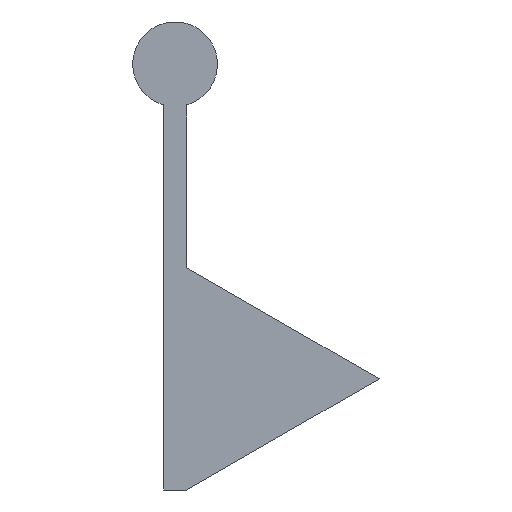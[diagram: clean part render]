
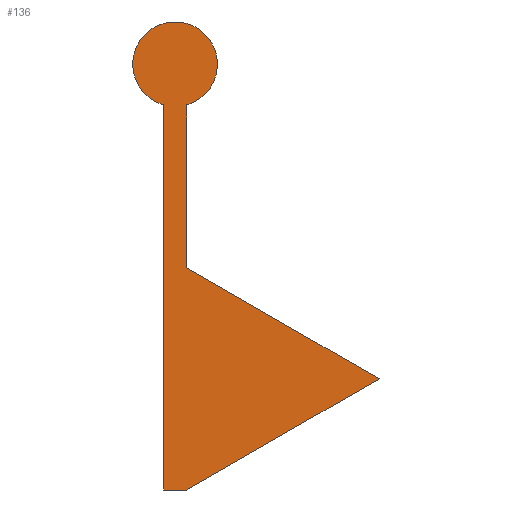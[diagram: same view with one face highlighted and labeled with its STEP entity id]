
A CAD part, front view. The second image highlights one B-rep face of the part: STEP entity #136.
In plain terms, the highlighted planar face has unit normal (0, -1, 0).
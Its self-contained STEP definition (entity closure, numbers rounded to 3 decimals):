
#7 = FACE_OUTER_BOUND ( 'NONE', #71, .T. ) ;
#17 = ORIENTED_EDGE ( 'NONE', *, *, #141, .F. ) ;
#29 = CARTESIAN_POINT ( 'NONE',  ( 26.5, 0., -40.858 ) ) ;
#31 = CARTESIAN_POINT ( 'NONE',  ( 1.5, 0., -55.292 ) ) ;
#32 = DIRECTION ( 'NONE',  ( 0., 0., 1. ) ) ;
#35 = DIRECTION ( 'NONE',  ( 0., 0., -1. ) ) ;
#36 = VERTEX_POINT ( 'NONE', #148 ) ;
#39 = CARTESIAN_POINT ( 'NONE',  ( 1.5, 0., -5.292 ) ) ;
#45 = AXIS2_PLACEMENT_3D ( 'NONE', #286, #185, #285 ) ;
#56 = VECTOR ( 'NONE', #65, 1000. ) ;
#57 = DIRECTION ( 'NONE',  ( 0.866, 0., -0.5 ) ) ;
#65 = DIRECTION ( 'NONE',  ( 0., 0., 1. ) ) ;
#71 = EDGE_LOOP ( 'NONE', ( #17, #224, #115, #229, #73, #328 ) ) ;
#73 = ORIENTED_EDGE ( 'NONE', *, *, #107, .F. ) ;
#92 = DIRECTION ( 'NONE',  ( -1., 0., 0. ) ) ;
#105 = CARTESIAN_POINT ( 'NONE',  ( 1.5, 0., -55.292 ) ) ;
#107 = EDGE_CURVE ( 'NONE', #36, #243, #109, .T. ) ;
#109 = LINE ( 'NONE', #29, #123 ) ;
#115 = ORIENTED_EDGE ( 'NONE', *, *, #297, .F. ) ;
#123 = VECTOR ( 'NONE', #57, 1000. ) ;
#127 = VERTEX_POINT ( 'NONE', #261 ) ;
#135 = DIRECTION ( 'NONE',  ( 0., 1., 0. ) ) ;
#136 = ADVANCED_FACE ( 'NONE', ( #7 ), #157, .F. ) ;
#138 = LINE ( 'NONE', #105, #150 ) ;
#139 = LINE ( 'NONE', #265, #192 ) ;
#141 = EDGE_CURVE ( 'NONE', #127, #252, #312, .T. ) ;
#142 = CARTESIAN_POINT ( 'NONE',  ( 1.5, 0., -5.292 ) ) ;
#148 = CARTESIAN_POINT ( 'NONE',  ( 1.5, 0., -26.424 ) ) ;
#150 = VECTOR ( 'NONE', #281, 1000. ) ;
#157 = PLANE ( 'NONE',  #305 ) ;
#168 = LINE ( 'NONE', #142, #202 ) ;
#181 = EDGE_CURVE ( 'NONE', #243, #194, #138, .T. ) ;
#185 = DIRECTION ( 'NONE',  ( 0., 1., 0. ) ) ;
#191 = CARTESIAN_POINT ( 'NONE',  ( -1.5, 0., -55.292 ) ) ;
#192 = VECTOR ( 'NONE', #92, 1000. ) ;
#194 = VERTEX_POINT ( 'NONE', #31 ) ;
#202 = VECTOR ( 'NONE', #35, 1000. ) ;
#212 = CARTESIAN_POINT ( 'NONE',  ( -1.5, 0., -5.292 ) ) ;
#224 = ORIENTED_EDGE ( 'NONE', *, *, #279, .F. ) ;
#229 = ORIENTED_EDGE ( 'NONE', *, *, #181, .F. ) ;
#241 = CARTESIAN_POINT ( 'NONE',  ( 26.5, 0., -40.858 ) ) ;
#243 = VERTEX_POINT ( 'NONE', #241 ) ;
#252 = VERTEX_POINT ( 'NONE', #39 ) ;
#261 = CARTESIAN_POINT ( 'NONE',  ( -1.5, 0., -5.292 ) ) ;
#265 = CARTESIAN_POINT ( 'NONE',  ( -1.5, 0., -55.292 ) ) ;
#279 = EDGE_CURVE ( 'NONE', #304, #127, #298, .T. ) ;
#281 = DIRECTION ( 'NONE',  ( -0.866, 0., -0.5 ) ) ;
#285 = DIRECTION ( 'NONE',  ( 0., 0., 1. ) ) ;
#286 = CARTESIAN_POINT ( 'NONE',  ( 0., 0., 0. ) ) ;
#297 = EDGE_CURVE ( 'NONE', #194, #304, #139, .T. ) ;
#298 = LINE ( 'NONE', #212, #56 ) ;
#304 = VERTEX_POINT ( 'NONE', #191 ) ;
#305 = AXIS2_PLACEMENT_3D ( 'NONE', #310, #135, #32 ) ;
#310 = CARTESIAN_POINT ( 'NONE',  ( 0., 0., 0. ) ) ;
#312 = CIRCLE ( 'NONE', #45, 5.5 ) ;
#314 = EDGE_CURVE ( 'NONE', #252, #36, #168, .T. ) ;
#328 = ORIENTED_EDGE ( 'NONE', *, *, #314, .F. ) ;
